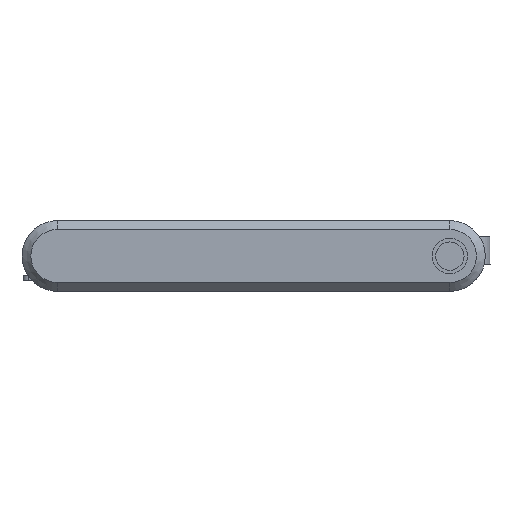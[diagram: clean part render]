
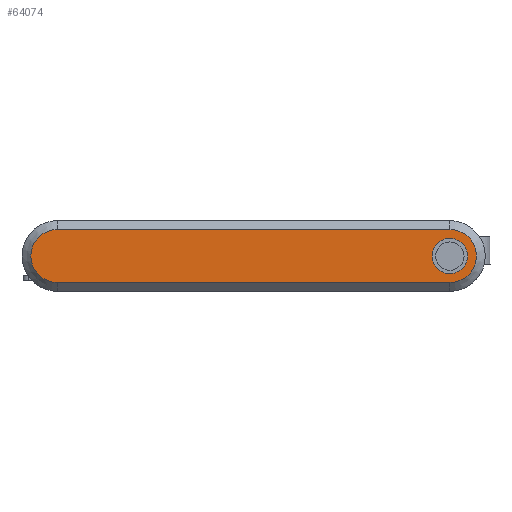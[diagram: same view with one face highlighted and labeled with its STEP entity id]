
A CAD part, front view. The second image highlights one B-rep face of the part: STEP entity #64074.
In plain terms, the highlighted planar face has unit normal (0, -1, 0).
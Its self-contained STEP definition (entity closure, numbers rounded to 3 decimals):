
#60742=DIRECTION('',(1.,0.,0.));
#60743=VECTOR('',#60742,11.1);
#60744=CARTESIAN_POINT('',(1093.672,437.874,
-0.75));
#60745=LINE('',#60744,#60743);
#60764=DIRECTION('',(-1.,0.,0.));
#60765=VECTOR('',#60764,11.1);
#60766=CARTESIAN_POINT('',(1104.772,437.874,
0.75));
#60767=LINE('',#60766,#60765);
#60768=CARTESIAN_POINT('',(1093.672,437.874,0.));
#60769=DIRECTION('',(0.,1.,0.));
#60770=DIRECTION('',(0.,0.,-1.));
#60771=AXIS2_PLACEMENT_3D('',#60768,#60769,#60770);
#60773=CARTESIAN_POINT('',(1104.772,437.874,0.));
#60774=DIRECTION('',(0.,1.,0.));
#60775=DIRECTION('',(0.,0.,1.));
#60776=AXIS2_PLACEMENT_3D('',#60773,#60774,#60775);
#60778=CARTESIAN_POINT('',(1104.772,437.874,0.));
#60779=DIRECTION('',(0.,-1.,0.));
#60780=DIRECTION('',(1.,0.,0.));
#60781=AXIS2_PLACEMENT_3D('',#60778,#60779,#60780);
#60783=CARTESIAN_POINT('',(1104.772,437.874,0.));
#60784=DIRECTION('',(0.,-1.,0.));
#60785=DIRECTION('',(-1.,0.,0.));
#60786=AXIS2_PLACEMENT_3D('',#60783,#60784,#60785);
#61490=CARTESIAN_POINT('',(1104.772,437.874,
-0.75));
#61491=VERTEX_POINT('',#61490);
#61492=CARTESIAN_POINT('',(1104.772,437.874,
0.75));
#61493=VERTEX_POINT('',#61492);
#61494=CARTESIAN_POINT('',(1093.672,437.874,
-0.75));
#61495=VERTEX_POINT('',#61494);
#61496=CARTESIAN_POINT('',(1093.672,437.874,
0.75));
#61497=VERTEX_POINT('',#61496);
#61498=CARTESIAN_POINT('',(1105.272,437.874,0.));
#61499=CARTESIAN_POINT('',(1104.272,437.874,0.));
#61500=VERTEX_POINT('',#61498);
#61501=VERTEX_POINT('',#61499);
#64057=CARTESIAN_POINT('',(0.,437.874,0.595));
#64058=DIRECTION('',(0.,-1.,0.));
#64059=DIRECTION('',(1.,0.,0.));
#64060=AXIS2_PLACEMENT_3D('',#64057,#64058,#64059);
#64061=PLANE('',#64060);
#64062=ORIENTED_EDGE('',*,*,#64036,.T.);
#64063=ORIENTED_EDGE('',*,*,#64050,.F.);
#64064=ORIENTED_EDGE('',*,*,#64006,.T.);
#64065=ORIENTED_EDGE('',*,*,#64022,.F.);
#64066=EDGE_LOOP('',(#64062,#64063,#64064,#64065));
#64067=FACE_OUTER_BOUND('',#64066,.F.);
#64069=ORIENTED_EDGE('',*,*,#64068,.T.);
#64071=ORIENTED_EDGE('',*,*,#64070,.T.);
#64072=EDGE_LOOP('',(#64069,#64071));
#64073=FACE_BOUND('',#64072,.F.);
#64074=ADVANCED_FACE('',(#64067,#64073),#64061,.T.);
#60772=CIRCLE('',#60771,0.75);
#60777=CIRCLE('',#60776,0.75);
#60782=CIRCLE('',#60781,0.5);
#60787=CIRCLE('',#60786,0.5);
#64006=EDGE_CURVE('',#61493,#61491,#60777,.T.);
#64022=EDGE_CURVE('',#61495,#61491,#60745,.T.);
#64036=EDGE_CURVE('',#61495,#61497,#60772,.T.);
#64050=EDGE_CURVE('',#61493,#61497,#60767,.T.);
#64068=EDGE_CURVE('',#61500,#61501,#60782,.T.);
#64070=EDGE_CURVE('',#61501,#61500,#60787,.T.);
